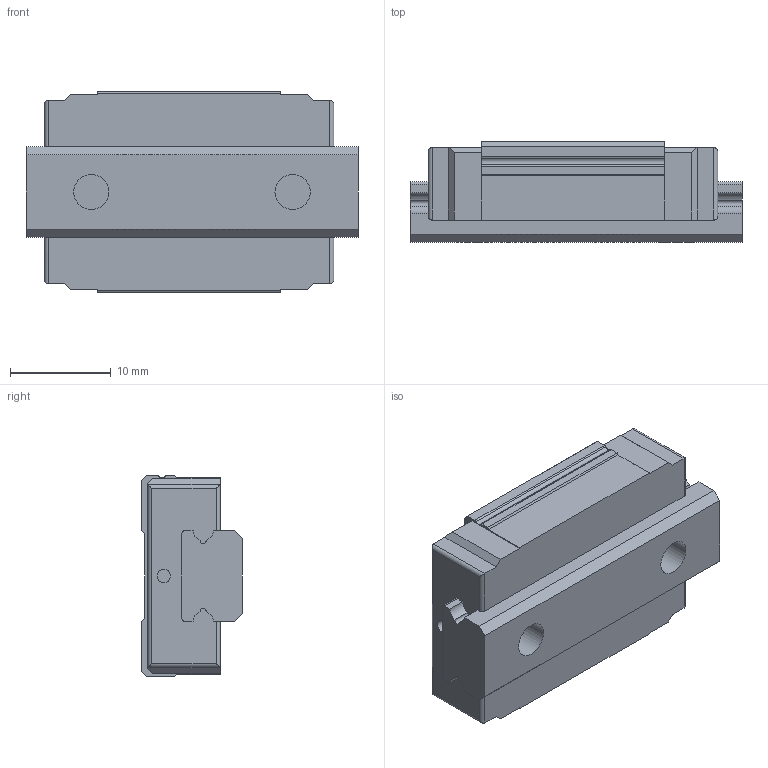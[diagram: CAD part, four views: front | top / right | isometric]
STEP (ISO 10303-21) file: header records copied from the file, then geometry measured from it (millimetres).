
FILE_DESCRIPTION( ( 'STEP AP214' ), '1' );
FILE_NAME( 'G:/品牌/AZI工艺/滑块/GGC/GGC9BA.stp', '2024-01-19T03:33:19', ( 'License CC BY-ND 4.0' ), ( 'CADENAS' ), ' ', 'PARTsolutions', ' ' );
FILE_SCHEMA( ( 'AUTOMOTIVE_DESIGN { 1 0 10303 214 1 1 1 1 }' ) );
Length unit declared in the file: millimetre
Products named in the file (3): ZCE10-33-(16.2-0-0); _ZTCE10-33; _ZZCE10
Assembly tree (2 placements, depth 2):
  ZCE10-33-(16.2-0-0)
    _ZTCE10-33
    _ZZCE10
Bounding box: 33 x 10 x 20 mm (x, y, z)
Volume: 4762 mm3; surface area: 3495.8 mm2
Topology: 2 solids, 2 shells, 104 faces, 272 edges, 176 vertices
Faces by surface type: plane 57, cylinder 39, cone 8
Full cylindrical faces by diameter (mm): 1.3 x2, 2.459 x4, 3.5 x2, 6 x2
Entity records: 3966 total; most frequent: DIRECTION 538, CARTESIAN_POINT 533, ORIENTED_EDGE 500, EDGE_CURVE 250, AXIS2_PLACEMENT_3D 181, VERTEX_POINT 176, LINE 176, VECTOR 176
